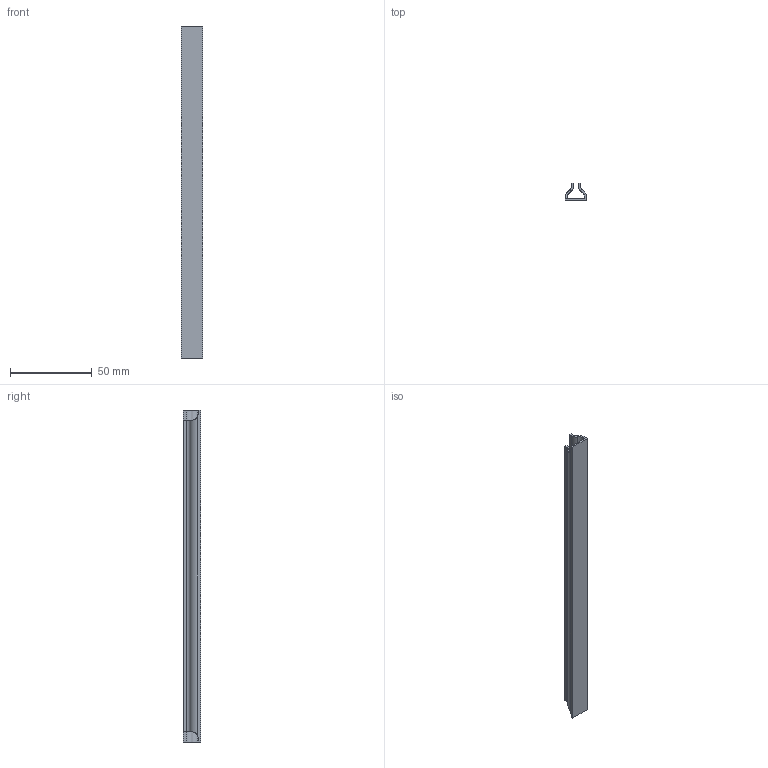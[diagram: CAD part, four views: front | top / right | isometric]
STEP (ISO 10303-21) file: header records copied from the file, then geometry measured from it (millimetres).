
FILE_DESCRIPTION (( 'STEP AP203' ), '1' );
FILE_NAME ('SLIM_EdgeLightStraight - 8 inch.STEP', '2019-01-07T16:54:09', ( '' ), ( '' ), 'SwSTEP 2.0', 'SolidWorks 2017', '' );
FILE_SCHEMA (( 'CONFIG_CONTROL_DESIGN' ));
Length unit declared in the file: inch
Products named in the file (1): SLIM_EdgeLightStraight - 8 inch
Bounding box: 12.9 x 10.55 x 203.2 mm (x, y, z)
Volume: 8180 mm3; surface area: 14198.1 mm2
Topology: 1 solids, 1 shells, 26 faces, 72 edges, 48 vertices
Faces by surface type: plane 16, cylinder 10
Entity records: 959 total; most frequent: CARTESIAN_POINT 205, ORIENTED_EDGE 144, DIRECTION 138, EDGE_CURVE 72, LINE 48, VERTEX_POINT 48, VECTOR 48, AXIS2_PLACEMENT_3D 45
